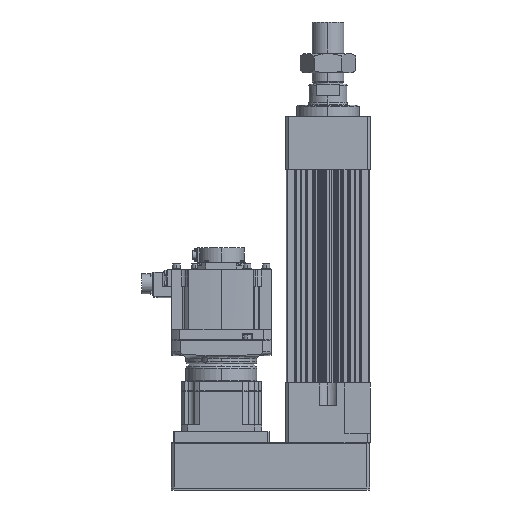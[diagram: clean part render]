
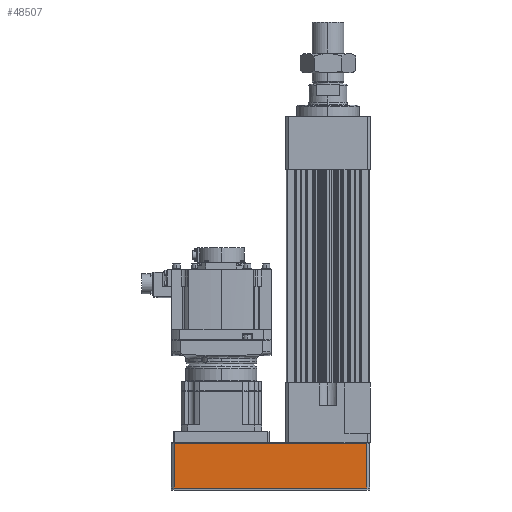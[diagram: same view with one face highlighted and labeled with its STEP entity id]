
A CAD part, left-side view. The second image highlights one B-rep face of the part: STEP entity #48507.
In plain terms, the highlighted planar face has unit normal (-1, 0, 0).
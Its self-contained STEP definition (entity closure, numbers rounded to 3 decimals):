
#3 = EDGE_CURVE ( 'NONE', #26446, #33167, #3713, .T. ) ;
#3419 = DIRECTION ( 'NONE',  ( 0., 0., 1. ) ) ;
#3713 = LINE ( 'NONE', #7281, #16095 ) ;
#4471 = EDGE_CURVE ( 'NONE', #40577, #33167, #47364, .T. ) ;
#6909 = DIRECTION ( 'NONE',  ( 0., 1., 0. ) ) ;
#6945 = LINE ( 'NONE', #12683, #28458 ) ;
#7281 = CARTESIAN_POINT ( 'NONE',  ( -73.5, -68.5, -106.5 ) ) ;
#9909 = CARTESIAN_POINT ( 'NONE',  ( -73.5, -68.5, -106.5 ) ) ;
#11653 = PLANE ( 'NONE',  #20376 ) ;
#11993 = EDGE_CURVE ( 'NONE', #40577, #49019, #6945, .T. ) ;
#12022 = DIRECTION ( 'NONE',  ( 1., 0., 0. ) ) ;
#12239 = FACE_OUTER_BOUND ( 'NONE', #17915, .T. ) ;
#12683 = CARTESIAN_POINT ( 'NONE',  ( -73.5, -68.5, -185.5 ) ) ;
#14250 = CARTESIAN_POINT ( 'NONE',  ( -73.5, 271.5, -186. ) ) ;
#16033 = VECTOR ( 'NONE', #30308, 1000. ) ;
#16095 = VECTOR ( 'NONE', #6909, 1000. ) ;
#16174 = DIRECTION ( 'NONE',  ( 0., 1., 0. ) ) ;
#17915 = EDGE_LOOP ( 'NONE', ( #47790, #41436, #35864, #49673 ) ) ;
#20376 = AXIS2_PLACEMENT_3D ( 'NONE', #20434, #12022, #16174 ) ;
#20434 = CARTESIAN_POINT ( 'NONE',  ( -73.5, -68.5, -186. ) ) ;
#26446 = VERTEX_POINT ( 'NONE', #9909 ) ;
#28458 = VECTOR ( 'NONE', #42387, 1000. ) ;
#29167 = CARTESIAN_POINT ( 'NONE',  ( -73.5, -68.5, -185.5 ) ) ;
#29563 = CARTESIAN_POINT ( 'NONE',  ( -73.5, 271.5, -106.5 ) ) ;
#30308 = DIRECTION ( 'NONE',  ( 0., 0., 1. ) ) ;
#33167 = VERTEX_POINT ( 'NONE', #29563 ) ;
#35600 = VECTOR ( 'NONE', #3419, 1000. ) ;
#35864 = ORIENTED_EDGE ( 'NONE', *, *, #52532, .T. ) ;
#40577 = VERTEX_POINT ( 'NONE', #51820 ) ;
#41436 = ORIENTED_EDGE ( 'NONE', *, *, #11993, .T. ) ;
#42387 = DIRECTION ( 'NONE',  ( 0., -1., 0. ) ) ;
#45328 = CARTESIAN_POINT ( 'NONE',  ( -73.5, -68.5, -186. ) ) ;
#47364 = LINE ( 'NONE', #14250, #16033 ) ;
#47790 = ORIENTED_EDGE ( 'NONE', *, *, #4471, .F. ) ;
#48507 = ADVANCED_FACE ( 'NONE', ( #12239 ), #11653, .F. ) ;
#49019 = VERTEX_POINT ( 'NONE', #29167 ) ;
#49673 = ORIENTED_EDGE ( 'NONE', *, *, #3, .T. ) ;
#51820 = CARTESIAN_POINT ( 'NONE',  ( -73.5, 271.5, -185.5 ) ) ;
#52532 = EDGE_CURVE ( 'NONE', #49019, #26446, #53836, .T. ) ;
#53836 = LINE ( 'NONE', #45328, #35600 ) ;
